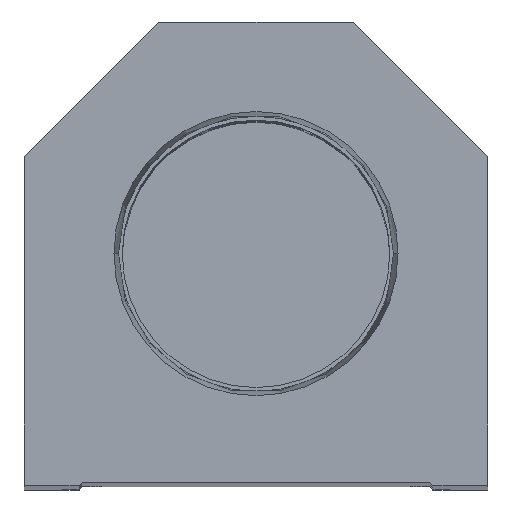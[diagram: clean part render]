
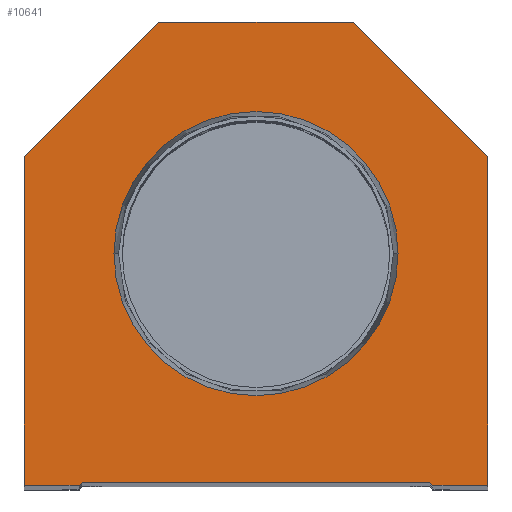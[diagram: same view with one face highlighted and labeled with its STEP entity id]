
A CAD part, top view. The second image highlights one B-rep face of the part: STEP entity #10641.
In plain terms, the highlighted planar face has unit normal (0, 0, 1).
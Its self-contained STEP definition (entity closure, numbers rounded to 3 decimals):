
#95 = CARTESIAN_POINT ( 'NONE',  ( 28.6, 0., 0. ) ) ;
#110 = CARTESIAN_POINT ( 'NONE',  ( 38.1, 54.1, 0. ) ) ;
#571 = VECTOR ( 'NONE', #1565, 1000. ) ;
#711 = LINE ( 'NONE', #6684, #3495 ) ;
#1162 = VERTEX_POINT ( 'NONE', #20829 ) ;
#1513 = ORIENTED_EDGE ( 'NONE', *, *, #22492, .T. ) ;
#1565 = DIRECTION ( 'NONE',  ( 0.707, 0.707, 0. ) ) ;
#1638 = CARTESIAN_POINT ( 'NONE',  ( -23.374, 38.1, 0. ) ) ;
#1665 = VERTEX_POINT ( 'NONE', #7084 ) ;
#1688 = CARTESIAN_POINT ( 'NONE',  ( 16., 76.2, 0. ) ) ;
#2167 = DIRECTION ( 'NONE',  ( 0., 0., 1. ) ) ;
#2506 = CARTESIAN_POINT ( 'NONE',  ( 38.1, 0., 0. ) ) ;
#2569 = DIRECTION ( 'NONE',  ( 1., 0., 0. ) ) ;
#2862 = CARTESIAN_POINT ( 'NONE',  ( 38.1, 0., 0. ) ) ;
#3074 = VECTOR ( 'NONE', #16352, 1000. ) ;
#3111 = LINE ( 'NONE', #2862, #17586 ) ;
#3312 = DIRECTION ( 'NONE',  ( 0., 0., 1. ) ) ;
#3495 = VECTOR ( 'NONE', #2569, 1000. ) ;
#3720 = EDGE_CURVE ( 'NONE', #22475, #15653, #11355, .T. ) ;
#4250 = VERTEX_POINT ( 'NONE', #15944 ) ;
#4445 = ORIENTED_EDGE ( 'NONE', *, *, #17108, .T. ) ;
#4873 = CARTESIAN_POINT ( 'NONE',  ( -28.6, 0.5, 0. ) ) ;
#5235 = CARTESIAN_POINT ( 'NONE',  ( 0., 38.1, 0. ) ) ;
#5272 = CARTESIAN_POINT ( 'NONE',  ( 38.1, 54.1, 0. ) ) ;
#5301 = EDGE_CURVE ( 'NONE', #16750, #23972, #711, .T. ) ;
#5422 = EDGE_LOOP ( 'NONE', ( #17399, #16876, #20281, #8107, #18533, #1513, #13292, #4445, #23984, #6644 ) ) ;
#5823 = DIRECTION ( 'NONE',  ( 1., 0., 0. ) ) ;
#5845 = CARTESIAN_POINT ( 'NONE',  ( 14.55, 14.55, 0. ) ) ;
#6319 = VECTOR ( 'NONE', #23914, 1000. ) ;
#6644 = ORIENTED_EDGE ( 'NONE', *, *, #14908, .T. ) ;
#6648 = ORIENTED_EDGE ( 'NONE', *, *, #16077, .F. ) ;
#6684 = CARTESIAN_POINT ( 'NONE',  ( -28.6, 0.5, 0. ) ) ;
#6708 = CARTESIAN_POINT ( 'NONE',  ( -28.6, 0., 0. ) ) ;
#6941 = FACE_BOUND ( 'NONE', #11736, .T. ) ;
#7049 = DIRECTION ( 'NONE',  ( 0., -1., 0. ) ) ;
#7060 = FACE_OUTER_BOUND ( 'NONE', #5422, .T. ) ;
#7084 = CARTESIAN_POINT ( 'NONE',  ( 23.374, 38.1, 0. ) ) ;
#7633 = CARTESIAN_POINT ( 'NONE',  ( -29.1, 0., 0. ) ) ;
#7766 = ORIENTED_EDGE ( 'NONE', *, *, #11501, .F. ) ;
#8107 = ORIENTED_EDGE ( 'NONE', *, *, #18417, .T. ) ;
#8270 = CIRCLE ( 'NONE', #14570, 23.374 ) ;
#8962 = DIRECTION ( 'NONE',  ( 0., 0., 1. ) ) ;
#9081 = AXIS2_PLACEMENT_3D ( 'NONE', #12730, #3312, #24147 ) ;
#9313 = LINE ( 'NONE', #5845, #18258 ) ;
#9514 = DIRECTION ( 'NONE',  ( -0.707, -0.707, 0. ) ) ;
#9535 = VERTEX_POINT ( 'NONE', #1638 ) ;
#9750 = LINE ( 'NONE', #95, #14996 ) ;
#9796 = EDGE_CURVE ( 'NONE', #4250, #24143, #14247, .T. ) ;
#10641 = ADVANCED_FACE ( 'NONE', ( #6941, #7060 ), #14840, .T. ) ;
#10782 = EDGE_CURVE ( 'NONE', #21569, #14766, #9750, .T. ) ;
#11016 = LINE ( 'NONE', #18595, #571 ) ;
#11355 = LINE ( 'NONE', #18942, #18517 ) ;
#11501 = EDGE_CURVE ( 'NONE', #1665, #9535, #11861, .T. ) ;
#11736 = EDGE_LOOP ( 'NONE', ( #7766, #6648 ) ) ;
#11861 = CIRCLE ( 'NONE', #15035, 23.374 ) ;
#12593 = VECTOR ( 'NONE', #7049, 1000. ) ;
#12730 = CARTESIAN_POINT ( 'NONE',  ( 0., 0., 0. ) ) ;
#12765 = DIRECTION ( 'NONE',  ( 1., 0., 0. ) ) ;
#13260 = EDGE_CURVE ( 'NONE', #22272, #1162, #20451, .T. ) ;
#13292 = ORIENTED_EDGE ( 'NONE', *, *, #13260, .T. ) ;
#13896 = CARTESIAN_POINT ( 'NONE',  ( 29.1, 0., 0. ) ) ;
#14247 = LINE ( 'NONE', #6708, #3074 ) ;
#14497 = VECTOR ( 'NONE', #24545, 1000. ) ;
#14570 = AXIS2_PLACEMENT_3D ( 'NONE', #5235, #8962, #12765 ) ;
#14766 = VERTEX_POINT ( 'NONE', #2506 ) ;
#14840 = PLANE ( 'NONE',  #9081 ) ;
#14908 = EDGE_CURVE ( 'NONE', #15653, #4250, #18322, .T. ) ;
#14996 = VECTOR ( 'NONE', #17307, 1000. ) ;
#15035 = AXIS2_PLACEMENT_3D ( 'NONE', #15215, #2167, #5823 ) ;
#15215 = CARTESIAN_POINT ( 'NONE',  ( 0., 38.1, 0. ) ) ;
#15653 = VERTEX_POINT ( 'NONE', #19782 ) ;
#15667 = CARTESIAN_POINT ( 'NONE',  ( 28.6, 0.5, 0. ) ) ;
#15944 = CARTESIAN_POINT ( 'NONE',  ( -38.1, 0., 0. ) ) ;
#16077 = EDGE_CURVE ( 'NONE', #9535, #1665, #8270, .T. ) ;
#16352 = DIRECTION ( 'NONE',  ( 1., 0., 0. ) ) ;
#16750 = VERTEX_POINT ( 'NONE', #4873 ) ;
#16876 = ORIENTED_EDGE ( 'NONE', *, *, #22787, .T. ) ;
#17108 = EDGE_CURVE ( 'NONE', #1162, #22475, #24285, .T. ) ;
#17307 = DIRECTION ( 'NONE',  ( 1., 0., 0. ) ) ;
#17399 = ORIENTED_EDGE ( 'NONE', *, *, #9796, .T. ) ;
#17586 = VECTOR ( 'NONE', #21710, 1000. ) ;
#18065 = CARTESIAN_POINT ( 'NONE',  ( -38.1, 0., 0. ) ) ;
#18258 = VECTOR ( 'NONE', #24178, 1000. ) ;
#18322 = LINE ( 'NONE', #18065, #12593 ) ;
#18417 = EDGE_CURVE ( 'NONE', #23972, #21569, #9313, .T. ) ;
#18517 = VECTOR ( 'NONE', #9514, 1000. ) ;
#18533 = ORIENTED_EDGE ( 'NONE', *, *, #10782, .T. ) ;
#18595 = CARTESIAN_POINT ( 'NONE',  ( -14.55, 14.55, 0. ) ) ;
#18942 = CARTESIAN_POINT ( 'NONE',  ( -38.1, 54.1, 0. ) ) ;
#19782 = CARTESIAN_POINT ( 'NONE',  ( -38.1, 54.1, 0. ) ) ;
#20281 = ORIENTED_EDGE ( 'NONE', *, *, #5301, .T. ) ;
#20451 = LINE ( 'NONE', #110, #14497 ) ;
#20829 = CARTESIAN_POINT ( 'NONE',  ( 16., 76.2, 0. ) ) ;
#21569 = VERTEX_POINT ( 'NONE', #13896 ) ;
#21710 = DIRECTION ( 'NONE',  ( 0., 1., 0. ) ) ;
#22272 = VERTEX_POINT ( 'NONE', #5272 ) ;
#22475 = VERTEX_POINT ( 'NONE', #22846 ) ;
#22492 = EDGE_CURVE ( 'NONE', #14766, #22272, #3111, .T. ) ;
#22787 = EDGE_CURVE ( 'NONE', #24143, #16750, #11016, .T. ) ;
#22846 = CARTESIAN_POINT ( 'NONE',  ( -16., 76.2, 0. ) ) ;
#23914 = DIRECTION ( 'NONE',  ( -1., 0., 0. ) ) ;
#23972 = VERTEX_POINT ( 'NONE', #15667 ) ;
#23984 = ORIENTED_EDGE ( 'NONE', *, *, #3720, .T. ) ;
#24143 = VERTEX_POINT ( 'NONE', #7633 ) ;
#24147 = DIRECTION ( 'NONE',  ( 1., 0., 0. ) ) ;
#24178 = DIRECTION ( 'NONE',  ( 0.707, -0.707, 0. ) ) ;
#24285 = LINE ( 'NONE', #1688, #6319 ) ;
#24545 = DIRECTION ( 'NONE',  ( -0.707, 0.707, 0. ) ) ;
